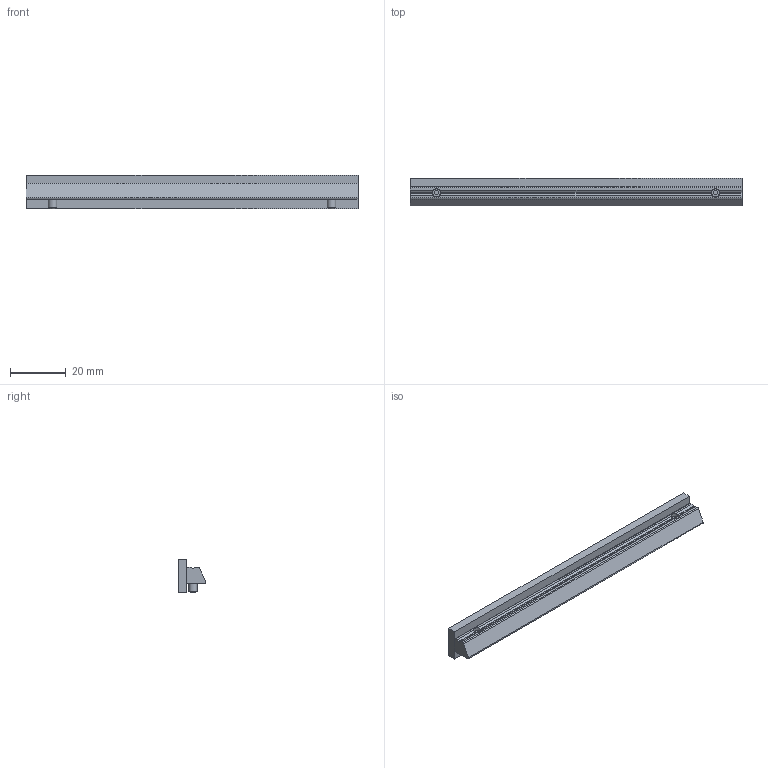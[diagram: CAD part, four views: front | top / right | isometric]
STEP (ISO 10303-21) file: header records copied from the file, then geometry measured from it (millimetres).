
FILE_DESCRIPTION(('STEP AP214'),'1');
FILE_NAME('RS3N-L120.stp','2017-07-25T07:08:41',(' '),(' '),'Spatial InterOp 3D',' ',' ');
FILE_SCHEMA(('automotive_design'));
Length unit declared in the file: millimetre
Products named in the file (5): RS3N-L120; R03S-119; R05N-L120
Assembly tree (5 placements, depth 3):
  RS3N-L120
    R03S-119
    R05N-L120
      R05N-L120
      (unnamed)  x2
Bounding box: 119 x 9.99 x 12 mm (x, y, z)
Volume: 8246.4 mm3; surface area: 6732.4 mm2
Topology: 4 solids, 4 shells, 52 faces, 128 edges, 84 vertices
Faces by surface type: plane 37, cylinder 11, cone 4
Full cylindrical faces by diameter (mm): 3 x4
Entity records: 1638 total; most frequent: CARTESIAN_POINT 229, DIRECTION 214, ORIENTED_EDGE 192, EDGE_CURVE 96, AXIS2_PLACEMENT_3D 75, VERTEX_POINT 66, LINE 64, VECTOR 64
